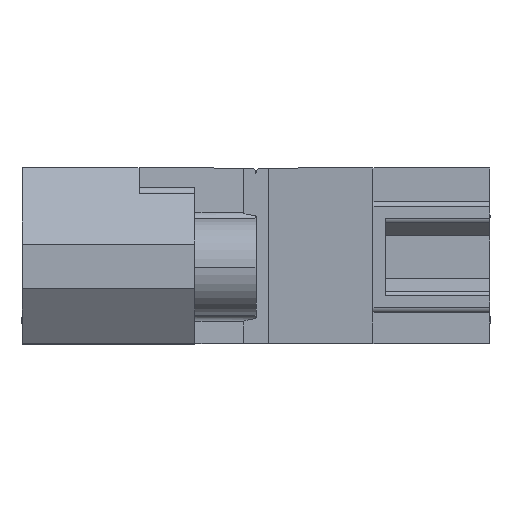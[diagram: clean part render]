
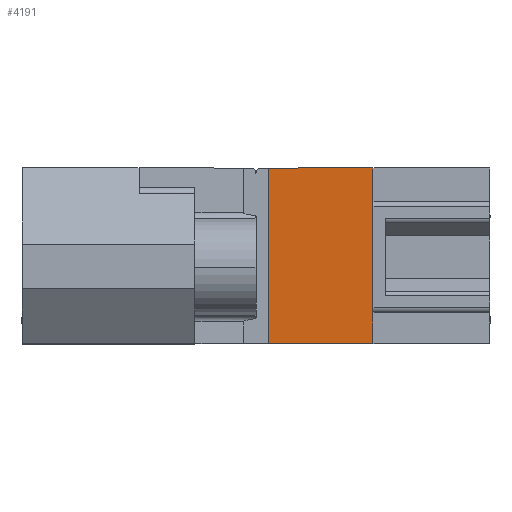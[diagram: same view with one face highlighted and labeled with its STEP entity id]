
A CAD part, top view. The second image highlights one B-rep face of the part: STEP entity #4191.
In plain terms, the highlighted planar face has unit normal (-0.073, 0, 0.997).
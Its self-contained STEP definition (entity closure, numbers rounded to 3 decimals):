
#695 = VERTEX_POINT ( 'NONE', #3203 ) ;
#935 = ORIENTED_EDGE ( 'NONE', *, *, #3299, .T. ) ;
#1352 = VECTOR ( 'NONE', #15566, 1000. ) ;
#1825 = EDGE_CURVE ( 'NONE', #14613, #16553, #8232, .T. ) ;
#1955 = VERTEX_POINT ( 'NONE', #8597 ) ;
#3203 = CARTESIAN_POINT ( 'NONE',  ( -4.6, 5.15, -4.85 ) ) ;
#3258 = CARTESIAN_POINT ( 'NONE',  ( -8.7, 6.9, -5.15 ) ) ;
#3299 = EDGE_CURVE ( 'NONE', #8584, #695, #16884, .T. ) ;
#3370 = CARTESIAN_POINT ( 'NONE',  ( -4.6, 6.9, -4.85 ) ) ;
#3675 = FACE_OUTER_BOUND ( 'NONE', #14484, .T. ) ;
#3758 = CARTESIAN_POINT ( 'NONE',  ( -8.7, 6.9, -5.15 ) ) ;
#4150 = EDGE_CURVE ( 'NONE', #14613, #10190, #16614, .T. ) ;
#4191 = ADVANCED_FACE ( 'NONE', ( #3675 ), #10749, .T. ) ;
#4706 = CARTESIAN_POINT ( 'NONE',  ( -8.7, 6.9, -5.15 ) ) ;
#4879 = EDGE_CURVE ( 'NONE', #16553, #695, #7637, .T. ) ;
#5031 = CARTESIAN_POINT ( 'NONE',  ( -4.6, 3.4, -4.85 ) ) ;
#5179 = CARTESIAN_POINT ( 'NONE',  ( -8.7, 0., -5.15 ) ) ;
#5337 = EDGE_CURVE ( 'NONE', #10190, #1955, #7615, .T. ) ;
#6115 = CARTESIAN_POINT ( 'NONE',  ( -4.6, 1.65, -4.85 ) ) ;
#6640 = CARTESIAN_POINT ( 'NONE',  ( -4.6, 6.9, -4.85 ) ) ;
#7541 = ORIENTED_EDGE ( 'NONE', *, *, #12270, .F. ) ;
#7574 = AXIS2_PLACEMENT_3D ( 'NONE', #4706, #10470, #15242 ) ;
#7615 = LINE ( 'NONE', #5179, #15173 ) ;
#7637 = LINE ( 'NONE', #3370, #7871 ) ;
#7803 = DIRECTION ( 'NONE',  ( 0.997, 0., 0.073 ) ) ;
#7871 = VECTOR ( 'NONE', #16919, 1000. ) ;
#8232 = LINE ( 'NONE', #3758, #15770 ) ;
#8584 = VERTEX_POINT ( 'NONE', #6115 ) ;
#8597 = CARTESIAN_POINT ( 'NONE',  ( -4.6, 0., -4.85 ) ) ;
#8601 = VECTOR ( 'NONE', #12728, 1000. ) ;
#9158 = DIRECTION ( 'NONE',  ( 0., -1., 0. ) ) ;
#9589 = DIRECTION ( 'NONE',  ( 0.997, 0., 0.073 ) ) ;
#9836 = ORIENTED_EDGE ( 'NONE', *, *, #1825, .F. ) ;
#10190 = VERTEX_POINT ( 'NONE', #13974 ) ;
#10470 = DIRECTION ( 'NONE',  ( -0.073, 0., 0.997 ) ) ;
#10749 = PLANE ( 'NONE',  #7574 ) ;
#11673 = VECTOR ( 'NONE', #9158, 1000. ) ;
#12270 = EDGE_CURVE ( 'NONE', #8584, #1955, #12630, .T. ) ;
#12630 = LINE ( 'NONE', #6640, #8601 ) ;
#12728 = DIRECTION ( 'NONE',  ( 0., -1., 0. ) ) ;
#13974 = CARTESIAN_POINT ( 'NONE',  ( -8.7, 0., -5.15 ) ) ;
#14484 = EDGE_LOOP ( 'NONE', ( #16798, #15430, #7541, #935, #17533, #9836 ) ) ;
#14613 = VERTEX_POINT ( 'NONE', #15681 ) ;
#15173 = VECTOR ( 'NONE', #7803, 1000. ) ;
#15242 = DIRECTION ( 'NONE',  ( 0.997, 0., 0.073 ) ) ;
#15430 = ORIENTED_EDGE ( 'NONE', *, *, #5337, .T. ) ;
#15566 = DIRECTION ( 'NONE',  ( 0., 1., 0. ) ) ;
#15681 = CARTESIAN_POINT ( 'NONE',  ( -8.7, 6.9, -5.15 ) ) ;
#15770 = VECTOR ( 'NONE', #9589, 1000. ) ;
#16011 = CARTESIAN_POINT ( 'NONE',  ( -4.6, 6.9, -4.85 ) ) ;
#16553 = VERTEX_POINT ( 'NONE', #16011 ) ;
#16614 = LINE ( 'NONE', #3258, #11673 ) ;
#16798 = ORIENTED_EDGE ( 'NONE', *, *, #4150, .T. ) ;
#16884 = LINE ( 'NONE', #5031, #1352 ) ;
#16919 = DIRECTION ( 'NONE',  ( 0., -1., 0. ) ) ;
#17533 = ORIENTED_EDGE ( 'NONE', *, *, #4879, .F. ) ;
